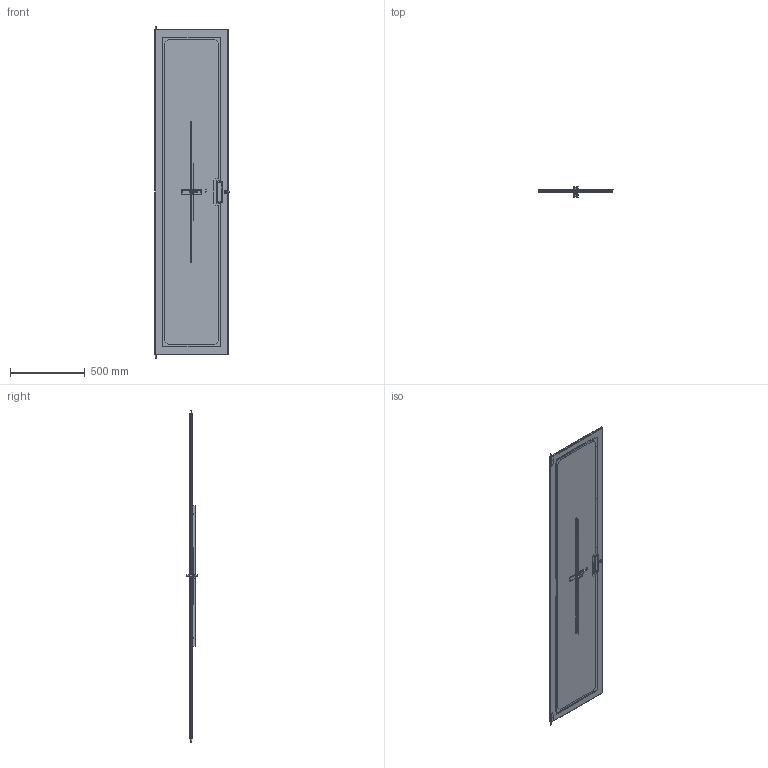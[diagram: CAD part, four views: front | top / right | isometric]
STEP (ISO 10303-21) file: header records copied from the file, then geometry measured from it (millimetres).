
FILE_DESCRIPTION( ( 'Unknown' ), '1' );
FILE_NAME( 'Q:/C2/WEB DRAWINGS/STEP/C2DF1985P.stp', 'Unknown', ( 'Unknown' ), ( 'Unknown' ), 'XStep 1.0', 'Unknown', ' ' );
FILE_SCHEMA( ( 'CONFIG_CONTROL_DESIGN' ) );
Length unit declared in the file: millimetre
Products named in the file (28): Assem1; Assem2; Assem3; 1; 2; 3; 4; 5; 6; 7; 8; 9; 10; 11; 12; 13; 14; 15; 16; 17; 18; 19; 20; 21; 22; 23; 24; 25
Bounding box: 496.67 x 69.85 x 2219.6 mm (x, y, z)
Volume: 12385970.5 mm3; surface area: 6321338 mm2
Topology: 80 solids, 80 shells, 1150 faces, 2707 edges, 1748 vertices
Faces by surface type: plane 735, cylinder 328, cone 65, bspline 16, torus 6
Full cylindrical faces by diameter (mm): 4.775 x54, 5.182 x3, 6.35 x63, 8.382 x2, 13.868 x2, 13.97 x2, 21.996 x2
Entity records: 11671 total; most frequent: CARTESIAN_POINT 2134, DIRECTION 1785, ORIENTED_EDGE 1550, EDGE_CURVE 775, AXIS2_PLACEMENT_3D 641, VERTEX_POINT 538, LINE 503, VECTOR 503
